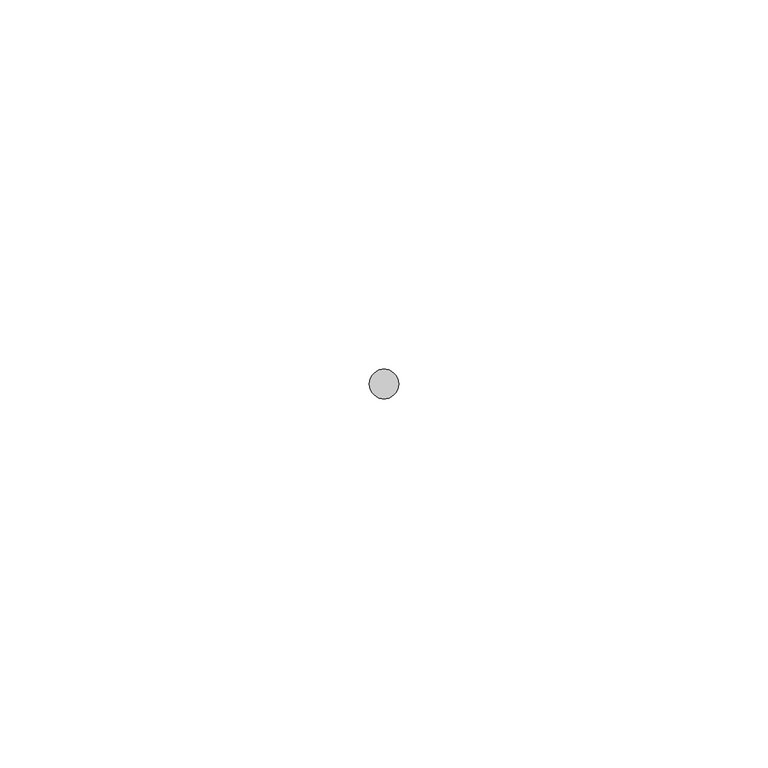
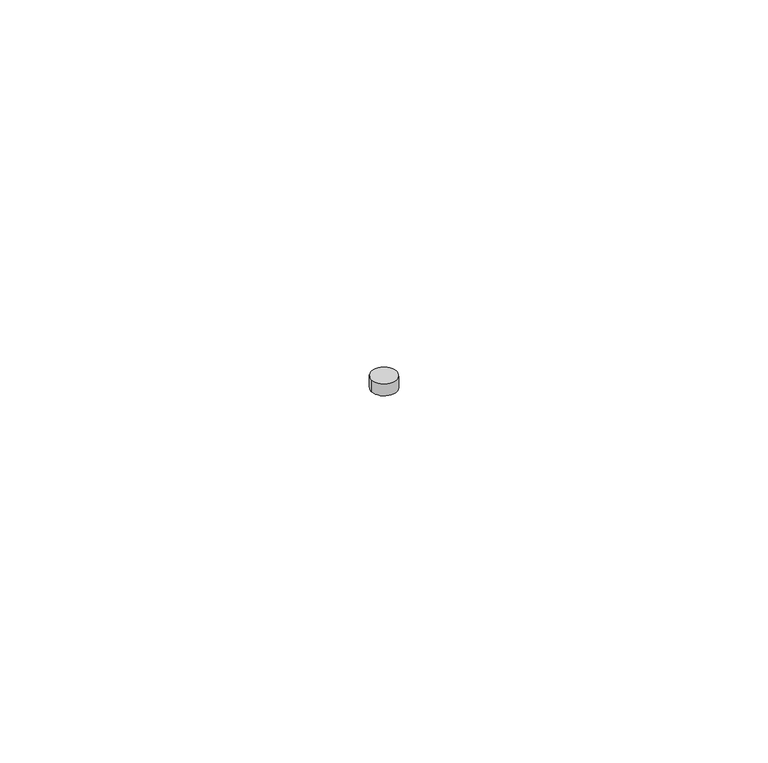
"""IFC4 building model written with IfcOpenShell, lengths in millimetres: flow terminal geometry, FDE_H613_DispositivosRestritoresDeVazão : H613_RestritorDeVazãoPara6L/minTorneiraseMisturadores."""

from ifc_helpers import new_model, si_unit, point, origin, origin_with_axes, origin_2d, place, context, project, spatial, circle_curve, trimmed, segment, composite_curve, outline, extrude, source, transform, mapped, element, save


def flow_terminal_ba364ebe(model_context):
    return source(origin(), model_context, "Body", "SweptSolid", [
        extrude(outline(composite_curve([segment(trimmed(circle_curve(origin_2d(), 2.0), [point((-2.0, 0.0))], [point((2.0, 0.0))], False, "CARTESIAN"), True, "CONTINUOUS"), segment(trimmed(circle_curve(origin_2d(), 2.0), [point((2.0, 0.0))], [point((-2.0, 0.0))], False, "CARTESIAN"), True, "CONTINUOUS")], self_intersect=False)), origin_with_axes(), (0.0, 0.0, 1.0), 2.0),
    ])


if __name__ == "__main__":
    model = new_model("IFC4")
    model_context = context("Model", 3, world=origin())
    ifc_project = project(units=[si_unit("LENGTHUNIT", "METRE", prefix="MILLI")], contexts=[model_context])
    site = spatial("IfcSite", under=ifc_project)
    building = spatial("IfcBuilding", under=site)
    placement = place(None, origin())
    flow_terminal_shape = flow_terminal_ba364ebe(model_context)
    element("IfcFlowTerminal", 1, ObjectType="FDE_H613_DispositivosRestritoresDeVazão : H613_RestritorDeVazãoPara6L/minTorneiraseMisturadores", at=placement, inside=building, context=model_context, shape_type="MappedRepresentation", body=[
        mapped(flow_terminal_shape, transform((0.0, 0.0, 0.0), x_axis=(1.0, 0.0, 0.0), y_axis=(0.0, 1.0, 0.0), z_axis=(0.0, 0.0, 1.0))),
    ])
    save(model, "model.ifc")
